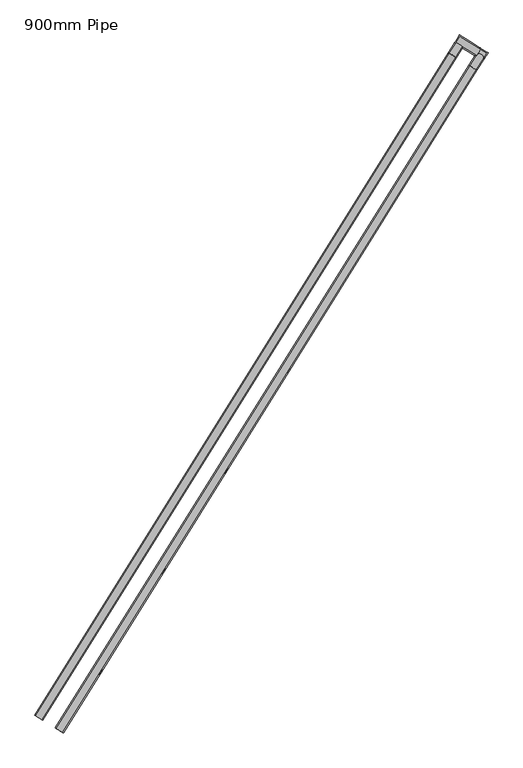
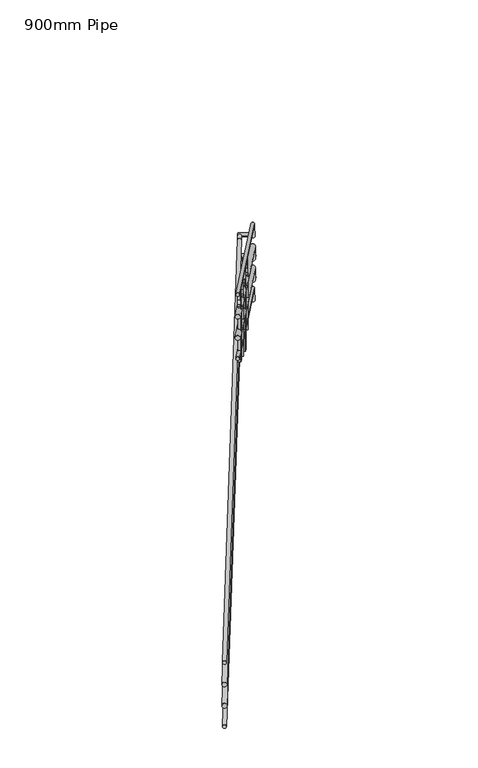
"""IFC4 building model written with IfcOpenShell, lengths in millimetres: railing geometry, 900mm Pipe."""

from ifc_helpers import new_model, si_unit, point, frame, frame_2d, origin, place, context, project, spatial, polyline, circle_curve, ellipse_curve, trimmed, segment, composite_curve, outline, extrude, source, transform, mapped, element, save
from ifc_brep_helpers import plane_surface, cylinder_surface, advanced_brep


def railing_900mm_pipe_fb1db97c(model_context):
    return source(origin(), model_context, "Body", "SolidModel", [
        advanced_brep(
        [(45849.2255802, -53294.2540452, 4433.2294902), (45874.6670231, -53310.1516232, 4433.2294902), (47597.9591522, -50495.6953279, 6083.2294902), (47623.400595, -50511.5929058, 6083.2294902)],
        [
            (0, 1, ellipse_curve(frame((45861.9463016, -53302.2028342, 4433.2294902), z_axis=(-0.5299192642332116, -0.8480480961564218, 0.0), x_axis=(0.0, 0.0, -1.0)), 16.7705098, 15.0)),
            (1, 0, ellipse_curve(frame((45861.9463016, -53302.2028342, 4433.2294902), z_axis=(-0.5299192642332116, -0.8480480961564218, 0.0), x_axis=(0.0, 0.0, -1.0)), 16.7705098, 15.0)),
            (2, 3, ellipse_curve(frame((47610.6798736, -50503.6441169, 6083.2294902), z_axis=(0.5299192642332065, 0.848048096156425, 0.0), x_axis=(0.0, 0.0, -1.0)), 16.7705098, 15.0)),
            (3, 2, ellipse_curve(frame((47610.6798736, -50503.6441169, 6083.2294902), z_axis=(0.5299192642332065, 0.848048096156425, 0.0), x_axis=(0.0, 0.0, -1.0)), 16.7705098, 15.0)),
            (0, 2),
            (3, 1),
        ],
        [
            plane_surface(frame((45861.9463016, -53302.2028342, 4450.0), z_axis=(-0.5299192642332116, -0.8480480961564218, 0.0), x_axis=(0.8480480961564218, -0.5299192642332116, 0.0))),
            plane_surface(frame((47610.6798736, -50503.6441169, 6100.0), z_axis=(0.5299192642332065, 0.848048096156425, 0.0), x_axis=(0.848048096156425, -0.5299192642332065, 0.0))),
            cylinder_surface(frame((45865.5011081, -53296.5139546, 4436.5835921), z_axis=(-0.4739741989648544, -0.7585172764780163, -0.44721359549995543), x_axis=(0.848048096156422, -0.5299192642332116, 0.0)), 15.0),
        ],
        [
            (0, [[1, 2]]),
            (1, [[3, 4]]),
            (2, [[-1, 5, -4, 6]]),
            (2, [[-2, -6, -3, -5]]),
        ],
    ),
        advanced_brep(
        [(47597.9591522, -50495.6953279, 6085.0), (47623.400595, -50511.5929058, 6085.0), (47625.9354666, -50450.9238659, 6085.0), (47651.3769095, -50466.8214438, 6085.0)],
        [
            (0, 1, circle_curve(frame((47610.6798736, -50503.6441169, 6085.0), z_axis=(-0.5299192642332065, -0.848048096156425, 0.0), x_axis=(0.848048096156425, -0.5299192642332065, 0.0)), 15.0)),
            (1, 0, circle_curve(frame((47610.6798736, -50503.6441169, 6085.0), z_axis=(-0.5299192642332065, -0.848048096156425, 0.0), x_axis=(0.848048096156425, -0.5299192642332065, 0.0)), 15.0)),
            (2, 3, circle_curve(frame((47638.6561881, -50458.8726548, 6085.0), z_axis=(0.5299192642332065, 0.848048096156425, 0.0), x_axis=(0.848048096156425, -0.5299192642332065, 0.0)), 15.0)),
            (3, 2, circle_curve(frame((47638.6561881, -50458.8726548, 6085.0), z_axis=(0.5299192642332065, 0.848048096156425, 0.0), x_axis=(0.848048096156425, -0.5299192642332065, 0.0)), 15.0)),
            (0, 2),
            (3, 1),
        ],
        [
            plane_surface(frame((47610.6798736, -50503.6441169, 6100.0), z_axis=(-0.5299192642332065, -0.848048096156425, 0.0), x_axis=(0.848048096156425, -0.5299192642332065, 0.0))),
            plane_surface(frame((47638.6561881, -50458.8726548, 6100.0), z_axis=(0.529919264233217, 0.8480480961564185, 0.0), x_axis=(0.8480480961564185, -0.529919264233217, 0.0))),
            cylinder_surface(frame((47610.6798736, -50503.6441169, 6085.0), z_axis=(-0.5299192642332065, -0.848048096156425, 0.0), x_axis=(0.848048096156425, -0.5299192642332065, 0.0)), 15.0),
        ],
        [
            (0, [[1, 2]]),
            (1, [[3, 4]]),
            (2, [[-1, 5, -4, 6]]),
            (2, [[-2, -6, -3, -5]]),
        ],
    ),
        advanced_brep(
        [(47641.8330446, -50425.482423, 6085.0), (47625.9354666, -50450.9238659, 6085.0), (47728.6891953, -50479.7561696, 6085.0), (47712.7916173, -50505.1976125, 6085.0)],
        [
            (0, 1, circle_curve(frame((47633.8842556, -50438.2031444, 6085.0), z_axis=(-0.8480480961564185, 0.529919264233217, 0.0), x_axis=(-0.529919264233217, -0.8480480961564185, 0.0)), 15.0)),
            (1, 0, circle_curve(frame((47633.8842556, -50438.2031444, 6085.0), z_axis=(-0.8480480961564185, 0.529919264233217, 0.0), x_axis=(-0.529919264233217, -0.8480480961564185, 0.0)), 15.0)),
            (2, 3, circle_curve(frame((47720.7404063, -50492.476891, 6085.0), z_axis=(0.8480480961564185, -0.529919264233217, 0.0), x_axis=(-0.529919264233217, -0.8480480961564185, 0.0)), 15.0)),
            (3, 2, circle_curve(frame((47720.7404063, -50492.476891, 6085.0), z_axis=(0.8480480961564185, -0.529919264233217, 0.0), x_axis=(-0.529919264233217, -0.8480480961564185, 0.0)), 15.0)),
            (0, 2),
            (3, 1),
        ],
        [
            plane_surface(frame((47633.8842556, -50438.2031444, 6100.0), z_axis=(-0.848048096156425, 0.5299192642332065, 0.0), x_axis=(0.5299192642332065, 0.848048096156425, 0.0))),
            plane_surface(frame((47720.7404063, -50492.476891, 6100.0), z_axis=(0.8480480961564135, -0.5299192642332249, 0.0), x_axis=(0.5299192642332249, 0.8480480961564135, 0.0))),
            cylinder_surface(frame((47633.8842556, -50438.2031444, 6085.0), z_axis=(-0.8480480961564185, 0.529919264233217, 0.0), x_axis=(-0.529919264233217, -0.8480480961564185, 0.0)), 15.0),
        ],
        [
            (0, [[1, 2]]),
            (1, [[3, 4]]),
            (2, [[-1, 5, -4, 6]]),
            (2, [[-2, -6, -3, -5]]),
        ],
    ),
        advanced_brep(
        [(47754.1306382, -50495.6537475, 6085.0), (47728.6891953, -50479.7561696, 6085.0), (47741.0514371, -50516.5848446, 6085.0), (47715.6099942, -50500.6872667, 6085.0), (47710.2567458, -50565.8666524, 6213.5787167), (47684.8153029, -50549.9690745, 6213.5787167)],
        [
            (0, 1, circle_curve(frame((47741.4099167, -50487.7049585, 6085.0), z_axis=(0.5299192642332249, 0.8480480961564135, 0.0), x_axis=(-0.8480480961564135, 0.5299192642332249, 0.0)), 15.0)),
            (1, 0, circle_curve(frame((47741.4099167, -50487.7049585, 6085.0), z_axis=(0.5299192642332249, 0.8480480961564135, 0.0), x_axis=(-0.8480480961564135, 0.5299192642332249, 0.0)), 15.0)),
            (0, 2),
            (2, 3, ellipse_curve(frame((47728.3307156, -50508.6360557, 6085.0), z_axis=(0.44523422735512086, 0.7125237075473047, -0.5422881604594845), x_axis=(0.287368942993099, 0.4598864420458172, 0.8401925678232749)), 17.8530501, 15.0)),
            (3, 1),
            (3, 2, ellipse_curve(frame((47728.3307156, -50508.6360557, 6085.0), z_axis=(0.44523422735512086, 0.7125237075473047, -0.5422881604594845), x_axis=(0.287368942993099, 0.4598864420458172, 0.8401925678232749)), 17.8530501, 15.0)),
            (4, 5, ellipse_curve(frame((47697.5360243, -50557.9178635, 6213.5787167), z_axis=(-0.5299192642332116, -0.8480480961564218, 0.0), x_axis=(0.0, 0.0, -1.0)), 36.4212833, 15.0)),
            (5, 4, ellipse_curve(frame((47697.5360243, -50557.9178635, 6213.5787167), z_axis=(-0.5299192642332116, -0.8480480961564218, 0.0), x_axis=(0.0, 0.0, -1.0)), 36.4212833, 15.0)),
            (2, 4),
            (5, 3),
        ],
        [
            plane_surface(frame((47741.4099167, -50487.7049585, 6100.0), z_axis=(0.529919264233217, 0.8480480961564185, 0.0), x_axis=(0.8480480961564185, -0.529919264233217, 0.0))),
            cylinder_surface(frame((47741.4099167, -50487.7049585, 6085.0), z_axis=(0.5299192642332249, 0.8480480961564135, 0.0), x_axis=(-0.8480480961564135, 0.5299192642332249, 0.0)), 15.0),
            plane_surface(frame((47697.5360243, -50557.9178635, 6250.0), z_axis=(-0.5299192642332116, -0.8480480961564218, 0.0), x_axis=(0.8480480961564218, -0.5299192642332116, 0.0))),
            cylinder_surface(frame((47726.2177702, -50512.0174751, 6093.8222935), z_axis=(0.2182457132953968, 0.3492661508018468, -0.911252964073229), x_axis=(-0.8480480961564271, 0.5299192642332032, 0.0)), 15.0),
        ],
        [
            (0, [[1, 2]]),
            (1, [[-1, 3, 4, 5]]),
            (1, [[-2, -5, 6, -3]]),
            (2, [[7, 8]]),
            (3, [[-4, 9, -8, 10]]),
            (3, [[-6, -10, -7, -9]]),
        ],
    ),
        advanced_brep(
        [(47710.2567458, -50565.8666524, 6233.2294902), (47684.8153029, -50549.9690745, 6233.2294902), (45961.5231738, -53364.4253698, 7883.2294902), (45936.0817309, -53348.5277918, 7883.2294902)],
        [
            (0, 1, ellipse_curve(frame((47697.5360243, -50557.9178635, 6233.2294902), z_axis=(0.5299192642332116, 0.8480480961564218, 0.0), x_axis=(0.0, 0.0, -1.0)), 16.7705098, 15.0)),
            (1, 0, ellipse_curve(frame((47697.5360243, -50557.9178635, 6233.2294902), z_axis=(0.5299192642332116, 0.8480480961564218, 0.0), x_axis=(0.0, 0.0, -1.0)), 16.7705098, 15.0)),
            (2, 3, ellipse_curve(frame((45948.8024523, -53356.4765808, 7883.2294902), z_axis=(-0.5299192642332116, -0.8480480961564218, 0.0), x_axis=(0.0, 0.0, -1.0)), 16.7705098, 15.0)),
            (3, 2, ellipse_curve(frame((45948.8024523, -53356.4765808, 7883.2294902), z_axis=(-0.5299192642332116, -0.8480480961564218, 0.0), x_axis=(0.0, 0.0, -1.0)), 16.7705098, 15.0)),
            (0, 2),
            (3, 1),
        ],
        [
            plane_surface(frame((47697.5360243, -50557.9178635, 6250.0), z_axis=(0.5299192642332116, 0.8480480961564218, 0.0), x_axis=(0.8480480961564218, -0.5299192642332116, 0.0))),
            plane_surface(frame((45948.8024523, -53356.4765808, 7900.0), z_axis=(-0.5299192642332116, -0.8480480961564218, 0.0), x_axis=(0.8480480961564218, -0.5299192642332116, 0.0))),
            cylinder_surface(frame((47693.9812178, -50563.6067431, 6236.5835921), z_axis=(0.47397419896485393, 0.7585172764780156, -0.4472135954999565), x_axis=(-0.848048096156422, 0.5299192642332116, 0.0)), 15.0),
        ],
        [
            (0, [[1, 2]]),
            (1, [[3, 4]]),
            (2, [[-1, 5, -4, 6]]),
            (2, [[-2, -6, -3, -5]]),
        ],
    ),
        advanced_brep(
        [(45844.9853397, -53291.6044489, 4227.6393202), (45878.9072636, -53312.8012195, 4227.6393202), (47593.7189117, -50493.0457316, 5877.6393202), (47627.6408355, -50514.2425022, 5877.6393202)],
        [
            (0, 1, ellipse_curve(frame((45861.9463016, -53302.2028342, 4227.6393202), z_axis=(-0.5299192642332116, -0.8480480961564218, 0.0), x_axis=(0.0, 0.0, -1.0)), 22.3606798, 20.0)),
            (1, 0, ellipse_curve(frame((45861.9463016, -53302.2028342, 4227.6393202), z_axis=(-0.5299192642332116, -0.8480480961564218, 0.0), x_axis=(0.0, 0.0, -1.0)), 22.3606798, 20.0)),
            (2, 3, ellipse_curve(frame((47610.6798736, -50503.6441169, 5877.6393202), z_axis=(0.5299192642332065, 0.848048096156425, 0.0), x_axis=(0.0, 0.0, -1.0)), 22.3606798, 20.0)),
            (3, 2, ellipse_curve(frame((47610.6798736, -50503.6441169, 5877.6393202), z_axis=(0.5299192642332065, 0.848048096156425, 0.0), x_axis=(0.0, 0.0, -1.0)), 22.3606798, 20.0)),
            (0, 2),
            (3, 1),
        ],
        [
            plane_surface(frame((45861.9463016, -53302.2028342, 4250.0), z_axis=(-0.5299192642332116, -0.8480480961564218, 0.0), x_axis=(0.8480480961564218, -0.5299192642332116, 0.0))),
            plane_surface(frame((47610.6798736, -50503.6441169, 5900.0), z_axis=(0.5299192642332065, 0.848048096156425, 0.0), x_axis=(0.848048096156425, -0.5299192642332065, 0.0))),
            cylinder_surface(frame((45866.6860436, -53294.6176614, 4232.1114562), z_axis=(-0.4739741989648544, -0.7585172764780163, -0.44721359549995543), x_axis=(0.848048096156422, -0.5299192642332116, 0.0)), 20.0),
        ],
        [
            (0, [[1, 2]]),
            (1, [[3, 4]]),
            (2, [[-1, 5, -4, 6]]),
            (2, [[-2, -6, -3, -5]]),
        ],
    ),
        advanced_brep(
        [(47593.7189117, -50493.0457316, 5880.0), (47627.6408355, -50514.2425022, 5880.0), (47619.0456298, -50452.51451, 5880.0), (47652.9675537, -50473.7112806, 5880.0)],
        [
            (0, 1, circle_curve(frame((47610.6798736, -50503.6441169, 5880.0), z_axis=(-0.5299192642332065, -0.848048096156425, 0.0), x_axis=(0.848048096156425, -0.5299192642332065, 0.0)), 20.0)),
            (1, 0, circle_curve(frame((47610.6798736, -50503.6441169, 5880.0), z_axis=(-0.5299192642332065, -0.848048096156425, 0.0), x_axis=(0.848048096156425, -0.5299192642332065, 0.0)), 20.0)),
            (2, 3, circle_curve(frame((47636.0065918, -50463.1128953, 5880.0), z_axis=(0.5299192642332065, 0.848048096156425, 0.0), x_axis=(0.848048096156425, -0.5299192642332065, 0.0)), 20.0)),
            (3, 2, circle_curve(frame((47636.0065918, -50463.1128953, 5880.0), z_axis=(0.5299192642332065, 0.848048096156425, 0.0), x_axis=(0.848048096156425, -0.5299192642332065, 0.0)), 20.0)),
            (0, 2),
            (3, 1),
        ],
        [
            plane_surface(frame((47610.6798736, -50503.6441169, 5900.0), z_axis=(-0.5299192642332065, -0.848048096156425, 0.0), x_axis=(0.848048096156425, -0.5299192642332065, 0.0))),
            plane_surface(frame((47636.0065918, -50463.1128953, 5900.0), z_axis=(0.529919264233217, 0.8480480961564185, 0.0), x_axis=(0.8480480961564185, -0.529919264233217, 0.0))),
            cylinder_surface(frame((47610.6798736, -50503.6441169, 5880.0), z_axis=(-0.5299192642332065, -0.848048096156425, 0.0), x_axis=(0.848048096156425, -0.5299192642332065, 0.0)), 20.0),
        ],
        [
            (0, [[1, 2]]),
            (1, [[3, 4]]),
            (2, [[-1, 5, -4, 6]]),
            (2, [[-2, -6, -3, -5]]),
        ],
    ),
        advanced_brep(
        [(47640.2424004, -50418.5925862, 5880.0), (47619.0456298, -50452.51451, 5880.0), (47727.0985511, -50472.8663328, 5880.0), (47705.9017805, -50506.7882566, 5880.0)],
        [
            (0, 1, circle_curve(frame((47629.6440151, -50435.5535481, 5880.0), z_axis=(-0.8480480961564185, 0.529919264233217, 0.0), x_axis=(-0.529919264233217, -0.8480480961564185, 0.0)), 20.0)),
            (1, 0, circle_curve(frame((47629.6440151, -50435.5535481, 5880.0), z_axis=(-0.8480480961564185, 0.529919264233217, 0.0), x_axis=(-0.529919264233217, -0.8480480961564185, 0.0)), 20.0)),
            (2, 3, circle_curve(frame((47716.5001658, -50489.8272947, 5880.0), z_axis=(0.8480480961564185, -0.529919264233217, 0.0), x_axis=(-0.529919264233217, -0.8480480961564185, 0.0)), 20.0)),
            (3, 2, circle_curve(frame((47716.5001658, -50489.8272947, 5880.0), z_axis=(0.8480480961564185, -0.529919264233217, 0.0), x_axis=(-0.529919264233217, -0.8480480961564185, 0.0)), 20.0)),
            (0, 2),
            (3, 1),
        ],
        [
            plane_surface(frame((47629.6440151, -50435.5535481, 5900.0), z_axis=(-0.848048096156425, 0.5299192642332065, 0.0), x_axis=(0.5299192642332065, 0.848048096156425, 0.0))),
            plane_surface(frame((47716.5001658, -50489.8272947, 5900.0), z_axis=(0.8480480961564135, -0.5299192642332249, 0.0), x_axis=(0.5299192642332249, 0.8480480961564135, 0.0))),
            cylinder_surface(frame((47629.6440151, -50435.5535481, 5880.0), z_axis=(-0.8480480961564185, 0.529919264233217, 0.0), x_axis=(-0.529919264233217, -0.8480480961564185, 0.0)), 20.0),
        ],
        [
            (0, [[1, 2]]),
            (1, [[3, 4]]),
            (2, [[-1, 5, -4, 6]]),
            (2, [[-2, -6, -3, -5]]),
        ],
    ),
        advanced_brep(
        [(47761.020475, -50494.0631033, 5880.0), (47727.0985511, -50472.8663328, 5880.0), (47743.5815402, -50521.9712329, 5880.0), (47709.6596163, -50500.7744623, 5880.0), (47714.4969862, -50568.5162488, 6001.4382889), (47680.5750624, -50547.3194782, 6001.4382889)],
        [
            (0, 1, circle_curve(frame((47744.059513, -50483.4647181, 5880.0), z_axis=(0.5299192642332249, 0.8480480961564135, 0.0), x_axis=(-0.8480480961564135, 0.5299192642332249, 0.0)), 20.0)),
            (1, 0, circle_curve(frame((47744.059513, -50483.4647181, 5880.0), z_axis=(0.5299192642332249, 0.8480480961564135, 0.0), x_axis=(-0.8480480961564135, 0.5299192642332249, 0.0)), 20.0)),
            (0, 2),
            (2, 3, ellipse_curve(frame((47726.6205782, -50511.3728476, 5880.0), z_axis=(0.44523422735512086, 0.7125237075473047, -0.5422881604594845), x_axis=(0.287368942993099, 0.4598864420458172, 0.8401925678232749)), 23.8040668, 20.0)),
            (3, 1),
            (3, 2, ellipse_curve(frame((47726.6205782, -50511.3728476, 5880.0), z_axis=(0.44523422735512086, 0.7125237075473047, -0.5422881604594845), x_axis=(0.287368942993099, 0.4598864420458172, 0.8401925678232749)), 23.8040668, 20.0)),
            (4, 5, ellipse_curve(frame((47697.5360243, -50557.9178635, 6001.4382889), z_axis=(-0.5299192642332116, -0.8480480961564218, 0.0), x_axis=(0.0, 0.0, -1.0)), 48.5617111, 20.0)),
            (5, 4, ellipse_curve(frame((47697.5360243, -50557.9178635, 6001.4382889), z_axis=(-0.5299192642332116, -0.8480480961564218, 0.0), x_axis=(0.0, 0.0, -1.0)), 48.5617111, 20.0)),
            (2, 4),
            (5, 3),
        ],
        [
            plane_surface(frame((47744.059513, -50483.4647181, 5900.0), z_axis=(0.529919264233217, 0.8480480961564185, 0.0), x_axis=(0.8480480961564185, -0.529919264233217, 0.0))),
            cylinder_surface(frame((47744.059513, -50483.4647181, 5880.0), z_axis=(0.5299192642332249, 0.8480480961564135, 0.0), x_axis=(-0.8480480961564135, 0.5299192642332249, 0.0)), 20.0),
            plane_surface(frame((47697.5360243, -50557.9178635, 6050.0), z_axis=(-0.5299192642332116, -0.8480480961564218, 0.0), x_axis=(0.8480480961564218, -0.5299192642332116, 0.0))),
            cylinder_surface(frame((47723.8033177, -50515.8814068, 5891.763058), z_axis=(0.2182457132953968, 0.3492661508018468, -0.911252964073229), x_axis=(-0.8480480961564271, 0.5299192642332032, 0.0)), 20.0),
        ],
        [
            (0, [[1, 2]]),
            (1, [[-1, 3, 4, 5]]),
            (1, [[-2, -5, 6, -3]]),
            (2, [[7, 8]]),
            (3, [[-4, 9, -8, 10]]),
            (3, [[-6, -10, -7, -9]]),
        ],
    ),
        advanced_brep(
        [(47714.4969862, -50568.5162488, 6027.6393202), (47680.5750624, -50547.3194782, 6027.6393202), (45965.7634143, -53367.0749661, 7677.6393202), (45931.8414904, -53345.8781955, 7677.6393202)],
        [
            (0, 1, ellipse_curve(frame((47697.5360243, -50557.9178635, 6027.6393202), z_axis=(0.5299192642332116, 0.8480480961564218, 0.0), x_axis=(0.0, 0.0, -1.0)), 22.3606798, 20.0)),
            (1, 0, ellipse_curve(frame((47697.5360243, -50557.9178635, 6027.6393202), z_axis=(0.5299192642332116, 0.8480480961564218, 0.0), x_axis=(0.0, 0.0, -1.0)), 22.3606798, 20.0)),
            (2, 3, ellipse_curve(frame((45948.8024523, -53356.4765808, 7677.6393202), z_axis=(-0.5299192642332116, -0.8480480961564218, 0.0), x_axis=(0.0, 0.0, -1.0)), 22.3606798, 20.0)),
            (3, 2, ellipse_curve(frame((45948.8024523, -53356.4765808, 7677.6393202), z_axis=(-0.5299192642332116, -0.8480480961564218, 0.0), x_axis=(0.0, 0.0, -1.0)), 22.3606798, 20.0)),
            (0, 2),
            (3, 1),
        ],
        [
            plane_surface(frame((47697.5360243, -50557.9178635, 6050.0), z_axis=(0.5299192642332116, 0.8480480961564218, 0.0), x_axis=(0.8480480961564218, -0.5299192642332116, 0.0))),
            plane_surface(frame((45948.8024523, -53356.4765808, 7700.0), z_axis=(-0.5299192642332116, -0.8480480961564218, 0.0), x_axis=(0.8480480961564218, -0.5299192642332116, 0.0))),
            cylinder_surface(frame((47692.7962823, -50565.5030362, 6032.1114562), z_axis=(0.47397419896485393, 0.7585172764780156, -0.4472135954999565), x_axis=(-0.848048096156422, 0.5299192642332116, 0.0)), 20.0),
        ],
        [
            (0, [[1, 2]]),
            (1, [[3, 4]]),
            (2, [[-1, 5, -4, 6]]),
            (2, [[-2, -6, -3, -5]]),
        ],
    ),
        advanced_brep(
        [(45844.9853397, -53291.6044489, 4027.6393202), (45878.9072636, -53312.8012195, 4027.6393202), (47593.7189117, -50493.0457316, 5677.6393202), (47627.6408355, -50514.2425022, 5677.6393202)],
        [
            (0, 1, ellipse_curve(frame((45861.9463016, -53302.2028342, 4027.6393202), z_axis=(-0.5299192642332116, -0.8480480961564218, 0.0), x_axis=(0.0, 0.0, -1.0)), 22.3606798, 20.0)),
            (1, 0, ellipse_curve(frame((45861.9463016, -53302.2028342, 4027.6393202), z_axis=(-0.5299192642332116, -0.8480480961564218, 0.0), x_axis=(0.0, 0.0, -1.0)), 22.3606798, 20.0)),
            (2, 3, ellipse_curve(frame((47610.6798736, -50503.6441169, 5677.6393202), z_axis=(0.5299192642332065, 0.848048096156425, 0.0), x_axis=(0.0, 0.0, -1.0)), 22.3606798, 20.0)),
            (3, 2, ellipse_curve(frame((47610.6798736, -50503.6441169, 5677.6393202), z_axis=(0.5299192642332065, 0.848048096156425, 0.0), x_axis=(0.0, 0.0, -1.0)), 22.3606798, 20.0)),
            (0, 2),
            (3, 1),
        ],
        [
            plane_surface(frame((45861.9463016, -53302.2028342, 4050.0), z_axis=(-0.5299192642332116, -0.8480480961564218, 0.0), x_axis=(0.8480480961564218, -0.5299192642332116, 0.0))),
            plane_surface(frame((47610.6798736, -50503.6441169, 5700.0), z_axis=(0.5299192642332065, 0.848048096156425, 0.0), x_axis=(0.848048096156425, -0.5299192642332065, 0.0))),
            cylinder_surface(frame((45866.6860436, -53294.6176614, 4032.1114562), z_axis=(-0.4739741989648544, -0.7585172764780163, -0.44721359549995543), x_axis=(0.848048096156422, -0.5299192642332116, 0.0)), 20.0),
        ],
        [
            (0, [[1, 2]]),
            (1, [[3, 4]]),
            (2, [[-1, 5, -4, 6]]),
            (2, [[-2, -6, -3, -5]]),
        ],
    ),
        advanced_brep(
        [(47593.7189117, -50493.0457316, 5680.0), (47627.6408355, -50514.2425022, 5680.0), (47619.0456298, -50452.51451, 5680.0), (47652.9675537, -50473.7112806, 5680.0)],
        [
            (0, 1, circle_curve(frame((47610.6798736, -50503.6441169, 5680.0), z_axis=(-0.5299192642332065, -0.848048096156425, 0.0), x_axis=(0.848048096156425, -0.5299192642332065, 0.0)), 20.0)),
            (1, 0, circle_curve(frame((47610.6798736, -50503.6441169, 5680.0), z_axis=(-0.5299192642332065, -0.848048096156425, 0.0), x_axis=(0.848048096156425, -0.5299192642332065, 0.0)), 20.0)),
            (2, 3, circle_curve(frame((47636.0065918, -50463.1128953, 5680.0), z_axis=(0.5299192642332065, 0.848048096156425, 0.0), x_axis=(0.848048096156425, -0.5299192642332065, 0.0)), 20.0)),
            (3, 2, circle_curve(frame((47636.0065918, -50463.1128953, 5680.0), z_axis=(0.5299192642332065, 0.848048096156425, 0.0), x_axis=(0.848048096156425, -0.5299192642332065, 0.0)), 20.0)),
            (0, 2),
            (3, 1),
        ],
        [
            plane_surface(frame((47610.6798736, -50503.6441169, 5700.0), z_axis=(-0.5299192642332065, -0.848048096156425, 0.0), x_axis=(0.848048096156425, -0.5299192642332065, 0.0))),
            plane_surface(frame((47636.0065918, -50463.1128953, 5700.0), z_axis=(0.529919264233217, 0.8480480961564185, 0.0), x_axis=(0.8480480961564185, -0.529919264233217, 0.0))),
            cylinder_surface(frame((47610.6798736, -50503.6441169, 5680.0), z_axis=(-0.5299192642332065, -0.848048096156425, 0.0), x_axis=(0.848048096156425, -0.5299192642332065, 0.0)), 20.0),
        ],
        [
            (0, [[1, 2]]),
            (1, [[3, 4]]),
            (2, [[-1, 5, -4, 6]]),
            (2, [[-2, -6, -3, -5]]),
        ],
    ),
        advanced_brep(
        [(47640.2424004, -50418.5925862, 5680.0), (47619.0456298, -50452.51451, 5680.0), (47727.0985511, -50472.8663328, 5680.0), (47705.9017805, -50506.7882566, 5680.0)],
        [
            (0, 1, circle_curve(frame((47629.6440151, -50435.5535481, 5680.0), z_axis=(-0.8480480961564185, 0.529919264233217, 0.0), x_axis=(-0.529919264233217, -0.8480480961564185, 0.0)), 20.0)),
            (1, 0, circle_curve(frame((47629.6440151, -50435.5535481, 5680.0), z_axis=(-0.8480480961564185, 0.529919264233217, 0.0), x_axis=(-0.529919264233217, -0.8480480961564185, 0.0)), 20.0)),
            (2, 3, circle_curve(frame((47716.5001658, -50489.8272947, 5680.0), z_axis=(0.8480480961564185, -0.529919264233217, 0.0), x_axis=(-0.529919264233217, -0.8480480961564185, 0.0)), 20.0)),
            (3, 2, circle_curve(frame((47716.5001658, -50489.8272947, 5680.0), z_axis=(0.8480480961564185, -0.529919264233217, 0.0), x_axis=(-0.529919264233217, -0.8480480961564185, 0.0)), 20.0)),
            (0, 2),
            (3, 1),
        ],
        [
            plane_surface(frame((47629.6440151, -50435.5535481, 5700.0), z_axis=(-0.848048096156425, 0.5299192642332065, 0.0), x_axis=(0.5299192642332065, 0.848048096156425, 0.0))),
            plane_surface(frame((47716.5001658, -50489.8272947, 5700.0), z_axis=(0.8480480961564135, -0.5299192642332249, 0.0), x_axis=(0.5299192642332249, 0.8480480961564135, 0.0))),
            cylinder_surface(frame((47629.6440151, -50435.5535481, 5680.0), z_axis=(-0.8480480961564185, 0.529919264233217, 0.0), x_axis=(-0.529919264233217, -0.8480480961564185, 0.0)), 20.0),
        ],
        [
            (0, [[1, 2]]),
            (1, [[3, 4]]),
            (2, [[-1, 5, -4, 6]]),
            (2, [[-2, -6, -3, -5]]),
        ],
    ),
        advanced_brep(
        [(47761.020475, -50494.0631033, 5680.0), (47727.0985511, -50472.8663328, 5680.0), (47743.5815402, -50521.9712329, 5680.0), (47709.6596163, -50500.7744623, 5680.0), (47714.4969862, -50568.5162488, 5801.4382889), (47680.5750624, -50547.3194782, 5801.4382889)],
        [
            (0, 1, circle_curve(frame((47744.059513, -50483.4647181, 5680.0), z_axis=(0.5299192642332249, 0.8480480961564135, 0.0), x_axis=(-0.8480480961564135, 0.5299192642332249, 0.0)), 20.0)),
            (1, 0, circle_curve(frame((47744.059513, -50483.4647181, 5680.0), z_axis=(0.5299192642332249, 0.8480480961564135, 0.0), x_axis=(-0.8480480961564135, 0.5299192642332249, 0.0)), 20.0)),
            (0, 2),
            (2, 3, ellipse_curve(frame((47726.6205782, -50511.3728476, 5680.0), z_axis=(0.44523422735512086, 0.7125237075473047, -0.5422881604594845), x_axis=(0.287368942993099, 0.4598864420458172, 0.8401925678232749)), 23.8040668, 20.0)),
            (3, 1),
            (3, 2, ellipse_curve(frame((47726.6205782, -50511.3728476, 5680.0), z_axis=(0.44523422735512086, 0.7125237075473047, -0.5422881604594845), x_axis=(0.287368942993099, 0.4598864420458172, 0.8401925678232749)), 23.8040668, 20.0)),
            (4, 5, ellipse_curve(frame((47697.5360243, -50557.9178635, 5801.4382889), z_axis=(-0.5299192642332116, -0.8480480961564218, 0.0), x_axis=(0.0, 0.0, -1.0)), 48.5617111, 20.0)),
            (5, 4, ellipse_curve(frame((47697.5360243, -50557.9178635, 5801.4382889), z_axis=(-0.5299192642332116, -0.8480480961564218, 0.0), x_axis=(0.0, 0.0, -1.0)), 48.5617111, 20.0)),
            (2, 4),
            (5, 3),
        ],
        [
            plane_surface(frame((47744.059513, -50483.4647181, 5700.0), z_axis=(0.529919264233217, 0.8480480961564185, 0.0), x_axis=(0.8480480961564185, -0.529919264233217, 0.0))),
            cylinder_surface(frame((47744.059513, -50483.4647181, 5680.0), z_axis=(0.5299192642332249, 0.8480480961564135, 0.0), x_axis=(-0.8480480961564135, 0.5299192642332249, 0.0)), 20.0),
            plane_surface(frame((47697.5360243, -50557.9178635, 5850.0), z_axis=(-0.5299192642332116, -0.8480480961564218, 0.0), x_axis=(0.8480480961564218, -0.5299192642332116, 0.0))),
            cylinder_surface(frame((47723.8033177, -50515.8814068, 5691.763058), z_axis=(0.2182457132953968, 0.3492661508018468, -0.911252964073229), x_axis=(-0.8480480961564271, 0.5299192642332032, 0.0)), 20.0),
        ],
        [
            (0, [[1, 2]]),
            (1, [[-1, 3, 4, 5]]),
            (1, [[-2, -5, 6, -3]]),
            (2, [[7, 8]]),
            (3, [[-4, 9, -8, 10]]),
            (3, [[-6, -10, -7, -9]]),
        ],
    ),
        advanced_brep(
        [(47714.4969862, -50568.5162488, 5827.6393202), (47680.5750624, -50547.3194782, 5827.6393202), (45965.7634143, -53367.0749661, 7477.6393202), (45931.8414904, -53345.8781955, 7477.6393202)],
        [
            (0, 1, ellipse_curve(frame((47697.5360243, -50557.9178635, 5827.6393202), z_axis=(0.5299192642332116, 0.8480480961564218, 0.0), x_axis=(0.0, 0.0, -1.0)), 22.3606798, 20.0)),
            (1, 0, ellipse_curve(frame((47697.5360243, -50557.9178635, 5827.6393202), z_axis=(0.5299192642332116, 0.8480480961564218, 0.0), x_axis=(0.0, 0.0, -1.0)), 22.3606798, 20.0)),
            (2, 3, ellipse_curve(frame((45948.8024523, -53356.4765808, 7477.6393202), z_axis=(-0.5299192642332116, -0.8480480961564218, 0.0), x_axis=(0.0, 0.0, -1.0)), 22.3606798, 20.0)),
            (3, 2, ellipse_curve(frame((45948.8024523, -53356.4765808, 7477.6393202), z_axis=(-0.5299192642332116, -0.8480480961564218, 0.0), x_axis=(0.0, 0.0, -1.0)), 22.3606798, 20.0)),
            (0, 2),
            (3, 1),
        ],
        [
            plane_surface(frame((47697.5360243, -50557.9178635, 5850.0), z_axis=(0.5299192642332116, 0.8480480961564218, 0.0), x_axis=(0.8480480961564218, -0.5299192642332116, 0.0))),
            plane_surface(frame((45948.8024523, -53356.4765808, 7500.0), z_axis=(-0.5299192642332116, -0.8480480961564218, 0.0), x_axis=(0.8480480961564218, -0.5299192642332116, 0.0))),
            cylinder_surface(frame((47692.7962823, -50565.5030362, 5832.1114562), z_axis=(0.47397419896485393, 0.7585172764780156, -0.4472135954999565), x_axis=(-0.848048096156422, 0.5299192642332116, 0.0)), 20.0),
        ],
        [
            (0, [[1, 2]]),
            (1, [[3, 4]]),
            (2, [[-1, 5, -4, 6]]),
            (2, [[-2, -6, -3, -5]]),
        ],
    ),
        advanced_brep(
        [(45849.2255802, -53294.2540452, 3833.2294902), (45874.6670231, -53310.1516232, 3833.2294902), (47597.9591522, -50495.6953279, 5483.2294902), (47623.400595, -50511.5929058, 5483.2294902)],
        [
            (0, 1, ellipse_curve(frame((45861.9463016, -53302.2028342, 3833.2294902), z_axis=(-0.5299192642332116, -0.8480480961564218, 0.0), x_axis=(0.0, 0.0, -1.0)), 16.7705098, 15.0)),
            (1, 0, ellipse_curve(frame((45861.9463016, -53302.2028342, 3833.2294902), z_axis=(-0.5299192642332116, -0.8480480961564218, 0.0), x_axis=(0.0, 0.0, -1.0)), 16.7705098, 15.0)),
            (2, 3, ellipse_curve(frame((47610.6798736, -50503.6441169, 5483.2294902), z_axis=(0.5299192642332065, 0.848048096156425, 0.0), x_axis=(0.0, 0.0, -1.0)), 16.7705098, 15.0)),
            (3, 2, ellipse_curve(frame((47610.6798736, -50503.6441169, 5483.2294902), z_axis=(0.5299192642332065, 0.848048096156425, 0.0), x_axis=(0.0, 0.0, -1.0)), 16.7705098, 15.0)),
            (0, 2),
            (3, 1),
        ],
        [
            plane_surface(frame((45861.9463016, -53302.2028342, 3850.0), z_axis=(-0.5299192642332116, -0.8480480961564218, 0.0), x_axis=(0.8480480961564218, -0.5299192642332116, 0.0))),
            plane_surface(frame((47610.6798736, -50503.6441169, 5500.0), z_axis=(0.5299192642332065, 0.848048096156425, 0.0), x_axis=(0.848048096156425, -0.5299192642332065, 0.0))),
            cylinder_surface(frame((45865.5011081, -53296.5139546, 3836.5835921), z_axis=(-0.4739741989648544, -0.7585172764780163, -0.44721359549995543), x_axis=(0.848048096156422, -0.5299192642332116, 0.0)), 15.0),
        ],
        [
            (0, [[1, 2]]),
            (1, [[3, 4]]),
            (2, [[-1, 5, -4, 6]]),
            (2, [[-2, -6, -3, -5]]),
        ],
    ),
        advanced_brep(
        [(47597.9591522, -50495.6953279, 5485.0), (47623.400595, -50511.5929058, 5485.0), (47625.9354666, -50450.9238659, 5485.0), (47651.3769095, -50466.8214438, 5485.0)],
        [
            (0, 1, circle_curve(frame((47610.6798736, -50503.6441169, 5485.0), z_axis=(-0.5299192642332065, -0.848048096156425, 0.0), x_axis=(0.848048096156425, -0.5299192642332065, 0.0)), 15.0)),
            (1, 0, circle_curve(frame((47610.6798736, -50503.6441169, 5485.0), z_axis=(-0.5299192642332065, -0.848048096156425, 0.0), x_axis=(0.848048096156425, -0.5299192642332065, 0.0)), 15.0)),
            (2, 3, circle_curve(frame((47638.6561881, -50458.8726548, 5485.0), z_axis=(0.5299192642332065, 0.848048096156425, 0.0), x_axis=(0.848048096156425, -0.5299192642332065, 0.0)), 15.0)),
            (3, 2, circle_curve(frame((47638.6561881, -50458.8726548, 5485.0), z_axis=(0.5299192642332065, 0.848048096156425, 0.0), x_axis=(0.848048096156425, -0.5299192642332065, 0.0)), 15.0)),
            (0, 2),
            (3, 1),
        ],
        [
            plane_surface(frame((47610.6798736, -50503.6441169, 5500.0), z_axis=(-0.5299192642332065, -0.848048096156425, 0.0), x_axis=(0.848048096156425, -0.5299192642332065, 0.0))),
            plane_surface(frame((47638.6561881, -50458.8726548, 5500.0), z_axis=(0.529919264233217, 0.8480480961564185, 0.0), x_axis=(0.8480480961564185, -0.529919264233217, 0.0))),
            cylinder_surface(frame((47610.6798736, -50503.6441169, 5485.0), z_axis=(-0.5299192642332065, -0.848048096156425, 0.0), x_axis=(0.848048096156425, -0.5299192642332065, 0.0)), 15.0),
        ],
        [
            (0, [[1, 2]]),
            (1, [[3, 4]]),
            (2, [[-1, 5, -4, 6]]),
            (2, [[-2, -6, -3, -5]]),
        ],
    ),
        advanced_brep(
        [(47641.8330446, -50425.482423, 5485.0), (47625.9354666, -50450.9238659, 5485.0), (47728.6891953, -50479.7561696, 5485.0), (47712.7916173, -50505.1976125, 5485.0)],
        [
            (0, 1, circle_curve(frame((47633.8842556, -50438.2031444, 5485.0), z_axis=(-0.8480480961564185, 0.529919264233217, 0.0), x_axis=(-0.529919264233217, -0.8480480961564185, 0.0)), 15.0)),
            (1, 0, circle_curve(frame((47633.8842556, -50438.2031444, 5485.0), z_axis=(-0.8480480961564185, 0.529919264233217, 0.0), x_axis=(-0.529919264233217, -0.8480480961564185, 0.0)), 15.0)),
            (2, 3, circle_curve(frame((47720.7404063, -50492.476891, 5485.0), z_axis=(0.8480480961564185, -0.529919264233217, 0.0), x_axis=(-0.529919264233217, -0.8480480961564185, 0.0)), 15.0)),
            (3, 2, circle_curve(frame((47720.7404063, -50492.476891, 5485.0), z_axis=(0.8480480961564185, -0.529919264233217, 0.0), x_axis=(-0.529919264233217, -0.8480480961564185, 0.0)), 15.0)),
            (0, 2),
            (3, 1),
        ],
        [
            plane_surface(frame((47633.8842556, -50438.2031444, 5500.0), z_axis=(-0.848048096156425, 0.5299192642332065, 0.0), x_axis=(0.5299192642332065, 0.848048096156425, 0.0))),
            plane_surface(frame((47720.7404063, -50492.476891, 5500.0), z_axis=(0.8480480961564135, -0.5299192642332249, 0.0), x_axis=(0.5299192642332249, 0.8480480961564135, 0.0))),
            cylinder_surface(frame((47633.8842556, -50438.2031444, 5485.0), z_axis=(-0.8480480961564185, 0.529919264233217, 0.0), x_axis=(-0.529919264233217, -0.8480480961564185, 0.0)), 15.0),
        ],
        [
            (0, [[1, 2]]),
            (1, [[3, 4]]),
            (2, [[-1, 5, -4, 6]]),
            (2, [[-2, -6, -3, -5]]),
        ],
    ),
        advanced_brep(
        [(47754.1306382, -50495.6537475, 5485.0), (47728.6891953, -50479.7561696, 5485.0), (47741.0514371, -50516.5848446, 5485.0), (47715.6099942, -50500.6872667, 5485.0), (47710.2567458, -50565.8666524, 5613.5787167), (47684.8153029, -50549.9690745, 5613.5787167)],
        [
            (0, 1, circle_curve(frame((47741.4099167, -50487.7049585, 5485.0), z_axis=(0.5299192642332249, 0.8480480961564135, 0.0), x_axis=(-0.8480480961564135, 0.5299192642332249, 0.0)), 15.0)),
            (1, 0, circle_curve(frame((47741.4099167, -50487.7049585, 5485.0), z_axis=(0.5299192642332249, 0.8480480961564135, 0.0), x_axis=(-0.8480480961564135, 0.5299192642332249, 0.0)), 15.0)),
            (0, 2),
            (2, 3, ellipse_curve(frame((47728.3307156, -50508.6360557, 5485.0), z_axis=(0.44523422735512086, 0.7125237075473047, -0.5422881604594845), x_axis=(0.287368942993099, 0.4598864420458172, 0.8401925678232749)), 17.8530501, 15.0)),
            (3, 1),
            (3, 2, ellipse_curve(frame((47728.3307156, -50508.6360557, 5485.0), z_axis=(0.44523422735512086, 0.7125237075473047, -0.5422881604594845), x_axis=(0.287368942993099, 0.4598864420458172, 0.8401925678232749)), 17.8530501, 15.0)),
            (4, 5, ellipse_curve(frame((47697.5360243, -50557.9178635, 5613.5787167), z_axis=(-0.5299192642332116, -0.8480480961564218, 0.0), x_axis=(0.0, 0.0, -1.0)), 36.4212833, 15.0)),
            (5, 4, ellipse_curve(frame((47697.5360243, -50557.9178635, 5613.5787167), z_axis=(-0.5299192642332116, -0.8480480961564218, 0.0), x_axis=(0.0, 0.0, -1.0)), 36.4212833, 15.0)),
            (2, 4),
            (5, 3),
        ],
        [
            plane_surface(frame((47741.4099167, -50487.7049585, 5500.0), z_axis=(0.529919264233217, 0.8480480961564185, 0.0), x_axis=(0.8480480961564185, -0.529919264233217, 0.0))),
            cylinder_surface(frame((47741.4099167, -50487.7049585, 5485.0), z_axis=(0.5299192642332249, 0.8480480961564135, 0.0), x_axis=(-0.8480480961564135, 0.5299192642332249, 0.0)), 15.0),
            plane_surface(frame((47697.5360243, -50557.9178635, 5650.0), z_axis=(-0.5299192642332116, -0.8480480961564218, 0.0), x_axis=(0.8480480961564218, -0.5299192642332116, 0.0))),
            cylinder_surface(frame((47726.2177702, -50512.0174751, 5493.8222935), z_axis=(0.2182457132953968, 0.3492661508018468, -0.911252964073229), x_axis=(-0.8480480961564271, 0.5299192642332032, 0.0)), 15.0),
        ],
        [
            (0, [[1, 2]]),
            (1, [[-1, 3, 4, 5]]),
            (1, [[-2, -5, 6, -3]]),
            (2, [[7, 8]]),
            (3, [[-4, 9, -8, 10]]),
            (3, [[-6, -10, -7, -9]]),
        ],
    ),
        advanced_brep(
        [(47710.2567458, -50565.8666524, 5633.2294902), (47684.8153029, -50549.9690745, 5633.2294902), (45961.5231738, -53364.4253698, 7283.2294902), (45936.0817309, -53348.5277918, 7283.2294902)],
        [
            (0, 1, ellipse_curve(frame((47697.5360243, -50557.9178635, 5633.2294902), z_axis=(0.5299192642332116, 0.8480480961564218, 0.0), x_axis=(0.0, 0.0, -1.0)), 16.7705098, 15.0)),
            (1, 0, ellipse_curve(frame((47697.5360243, -50557.9178635, 5633.2294902), z_axis=(0.5299192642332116, 0.8480480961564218, 0.0), x_axis=(0.0, 0.0, -1.0)), 16.7705098, 15.0)),
            (2, 3, ellipse_curve(frame((45948.8024523, -53356.4765808, 7283.2294902), z_axis=(-0.5299192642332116, -0.8480480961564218, 0.0), x_axis=(0.0, 0.0, -1.0)), 16.7705098, 15.0)),
            (3, 2, ellipse_curve(frame((45948.8024523, -53356.4765808, 7283.2294902), z_axis=(-0.5299192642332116, -0.8480480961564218, 0.0), x_axis=(0.0, 0.0, -1.0)), 16.7705098, 15.0)),
            (0, 2),
            (3, 1),
        ],
        [
            plane_surface(frame((47697.5360243, -50557.9178635, 5650.0), z_axis=(0.5299192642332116, 0.8480480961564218, 0.0), x_axis=(0.8480480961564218, -0.5299192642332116, 0.0))),
            plane_surface(frame((45948.8024523, -53356.4765808, 7300.0), z_axis=(-0.5299192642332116, -0.8480480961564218, 0.0), x_axis=(0.8480480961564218, -0.5299192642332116, 0.0))),
            cylinder_surface(frame((47693.9812178, -50563.6067431, 5636.5835921), z_axis=(0.47397419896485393, 0.7585172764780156, -0.4472135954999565), x_axis=(-0.848048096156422, 0.5299192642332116, 0.0)), 15.0),
        ],
        [
            (0, [[1, 2]]),
            (1, [[3, 4]]),
            (2, [[-1, 5, -4, 6]]),
            (2, [[-2, -6, -3, -5]]),
        ],
    ),
        extrude(outline(composite_curve([segment(trimmed(circle_curve(frame_2d((0.0, -31.75)), 31.75), [point((0.0, -63.5))], [point((0.0, 0.0))], False, "CARTESIAN"), True, "CONTINUOUS"), segment(trimmed(circle_curve(frame_2d((0.0, -31.75)), 31.75), [point((0.0, 0.0))], [point((0.0, -63.5))], False, "CARTESIAN"), True, "CONTINUOUS")], self_intersect=False), holes=[composite_curve([segment(trimmed(circle_curve(frame_2d((0.0, -31.75)), 12.7), [point((0.0, -44.4499999))], [point((0.0, -19.05))], True, "CARTESIAN"), True, "CONTINUOUS"), segment(trimmed(circle_curve(frame_2d((0.0, -31.75)), 12.7), [point((0.0, -19.05))], [point((0.0, -44.4499999))], True, "CARTESIAN"), True, "CONTINUOUS")], self_intersect=False)]), frame((46135.3733791, -53081.8665996, 7599.35), z_axis=(-0.8480480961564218, 0.5299192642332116, 0.0), x_axis=(0.0, 0.0, 1.0)), (0.0, 0.0, 1.0), 25.4),
        extrude(outline(polyline([(46108.1130418, -53083.5519074), (46129.6534635, -53097.0118567), (46116.1935141, -53118.5522784), (46094.6530925, -53105.0923291), (46108.1130418, -53083.5519074)])), frame((0.0, 0.0, 7050.0), z_axis=(0.0, 0.0, 1.0), x_axis=(1.0, 0.0, 0.0)), (0.0, 0.0, 1.0), 517.6),
        extrude(outline(polyline([(317.5, 0.0), (317.5, -25.4), (234.95, -25.4), (222.25, 0.0), (317.5, 0.0)])), frame((46111.8184678, -53119.5623374, 7948.6), z_axis=(-0.8480480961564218, 0.5299192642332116, 0.0), x_axis=(0.0, 0.0, -1.0)), (0.0, 0.0, 1.0), 25.4),
        extrude(outline(composite_curve([segment(trimmed(circle_curve(frame_2d((0.0, -31.75)), 31.75), [point((0.0, -63.5))], [point((0.0, 0.0))], False, "CARTESIAN"), True, "CONTINUOUS"), segment(trimmed(circle_curve(frame_2d((0.0, -31.75)), 31.75), [point((0.0, 0.0))], [point((0.0, -63.5))], False, "CARTESIAN"), True, "CONTINUOUS")], self_intersect=False), holes=[composite_curve([segment(trimmed(circle_curve(frame_2d((0.0, -31.75)), 12.7), [point((0.0, -44.4499999))], [point((0.0, -19.05))], True, "CARTESIAN"), True, "CONTINUOUS"), segment(trimmed(circle_curve(frame_2d((0.0, -31.75)), 12.7), [point((0.0, -19.05))], [point((0.0, -44.4499999))], True, "CARTESIAN"), True, "CONTINUOUS")], self_intersect=False)]), frame((46400.3330112, -52657.8425515, 7349.35), z_axis=(-0.8480480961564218, 0.5299192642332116, 0.0), x_axis=(0.0, 0.0, 1.0)), (0.0, 0.0, 1.0), 25.4),
        extrude(outline(polyline([(46373.0726739, -52659.5278594), (46394.6130956, -52672.9878087), (46381.1531463, -52694.5282303), (46359.6127246, -52681.068281), (46373.0726739, -52659.5278594)])), frame((0.0, 0.0, 6750.0), z_axis=(0.0, 0.0, 1.0), x_axis=(1.0, 0.0, 0.0)), (0.0, 0.0, 1.0), 567.6),
        extrude(outline(polyline([(317.5, 0.0), (317.5, -25.4), (234.95, -25.4), (222.25, 0.0), (317.5, 0.0)])), frame((46376.7780999, -52695.5382893, 7698.6), z_axis=(-0.8480480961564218, 0.5299192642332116, 0.0), x_axis=(0.0, 0.0, -1.0)), (0.0, 0.0, 1.0), 25.4),
        extrude(outline(composite_curve([segment(trimmed(circle_curve(frame_2d((0.0, -31.7499999)), 31.75), [point((0.0, -63.5))], [point((0.0, 0.0))], False, "CARTESIAN"), True, "CONTINUOUS"), segment(trimmed(circle_curve(frame_2d((0.0, -31.7499999)), 31.75), [point((0.0, 0.0))], [point((0.0, -63.5))], False, "CARTESIAN"), True, "CONTINUOUS")], self_intersect=False), holes=[composite_curve([segment(trimmed(circle_curve(frame_2d((0.0, -31.7499999)), 12.7), [point((0.0, -44.45))], [point((0.0, -19.05))], True, "CARTESIAN"), True, "CONTINUOUS"), segment(trimmed(circle_curve(frame_2d((0.0, -31.7499999)), 12.7), [point((0.0, -19.05))], [point((0.0, -44.45))], True, "CARTESIAN"), True, "CONTINUOUS")], self_intersect=False)]), frame((46665.2926433, -52233.8185034, 7099.35), z_axis=(-0.8480480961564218, 0.5299192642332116, 0.0), x_axis=(0.0, 0.0, 1.0)), (0.0, 0.0, 1.0), 25.4),
        extrude(outline(polyline([(46638.032306, -52235.5038113), (46659.5727277, -52248.9637606), (46646.1127784, -52270.5041822), (46624.5723567, -52257.0442329), (46638.032306, -52235.5038113)])), frame((0.0, 0.0, 6450.0), z_axis=(0.0, 0.0, 1.0), x_axis=(1.0, 0.0, 0.0)), (0.0, 0.0, 1.0), 617.6),
        extrude(outline(polyline([(317.5, 0.0), (317.5, -25.4), (234.95, -25.4), (222.25, 0.0), (317.5, 0.0)])), frame((46641.737732, -52271.5142413, 7448.6), z_axis=(-0.8480480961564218, 0.5299192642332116, 0.0), x_axis=(0.0, 0.0, -1.0)), (0.0, 0.0, 1.0), 25.4),
        extrude(outline(composite_curve([segment(trimmed(circle_curve(frame_2d((0.0, -31.75)), 31.75), [point((0.0, -63.5))], [point((0.0, 0.0))], False, "CARTESIAN"), True, "CONTINUOUS"), segment(trimmed(circle_curve(frame_2d((0.0, -31.75)), 31.75), [point((0.0, 0.0))], [point((0.0, -63.5))], False, "CARTESIAN"), True, "CONTINUOUS")], self_intersect=False), holes=[composite_curve([segment(trimmed(circle_curve(frame_2d((0.0, -31.75)), 12.7), [point((0.0, -44.45))], [point((0.0, -19.05))], True, "CARTESIAN"), True, "CONTINUOUS"), segment(trimmed(circle_curve(frame_2d((0.0, -31.75)), 12.7), [point((0.0, -19.05))], [point((0.0, -44.45))], True, "CARTESIAN"), True, "CONTINUOUS")], self_intersect=False)]), frame((46930.2522754, -51809.7944553, 6849.35), z_axis=(-0.8480480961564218, 0.5299192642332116, 0.0), x_axis=(0.0, 0.0, 1.0)), (0.0, 0.0, 1.0), 25.4),
        extrude(outline(polyline([(46902.9919382, -51811.4797632), (46924.5323598, -51824.9397125), (46911.0724105, -51846.4801341), (46889.5319889, -51833.0201848), (46902.9919382, -51811.4797632)])), frame((0.0, 0.0, 6300.0), z_axis=(0.0, 0.0, 1.0), x_axis=(1.0, 0.0, 0.0)), (0.0, 0.0, 1.0), 517.6),
        extrude(outline(polyline([(317.5, 0.0), (317.5, -25.4), (234.95, -25.4), (222.25, 0.0), (317.5, 0.0)])), frame((46906.6973641, -51847.4901932, 7198.6), z_axis=(-0.8480480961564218, 0.5299192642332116, 0.0), x_axis=(0.0, 0.0, -1.0)), (0.0, 0.0, 1.0), 25.4),
    ])


if __name__ == "__main__":
    model = new_model("IFC4")
    model_context = context("Model", 3, world=origin())
    ifc_project = project(units=[si_unit("LENGTHUNIT", "METRE", prefix="MILLI")], contexts=[model_context])
    site = spatial("IfcSite", under=ifc_project)
    building = spatial("IfcBuilding", under=site)
    placement = place(None, origin())
    railing_900mm_pipe_shape = railing_900mm_pipe_fb1db97c(model_context)
    element("IfcRailing", 1, ObjectType="900mm Pipe", at=placement, inside=building, context=model_context, shape_type="MappedRepresentation", body=[
        mapped(railing_900mm_pipe_shape, transform((0.0, 0.0, 0.0), x_axis=(1.0, 0.0, 0.0), y_axis=(0.0, 1.0, 0.0), z_axis=(0.0, 0.0, 1.0))),
    ])
    save(model, "model.ifc")
